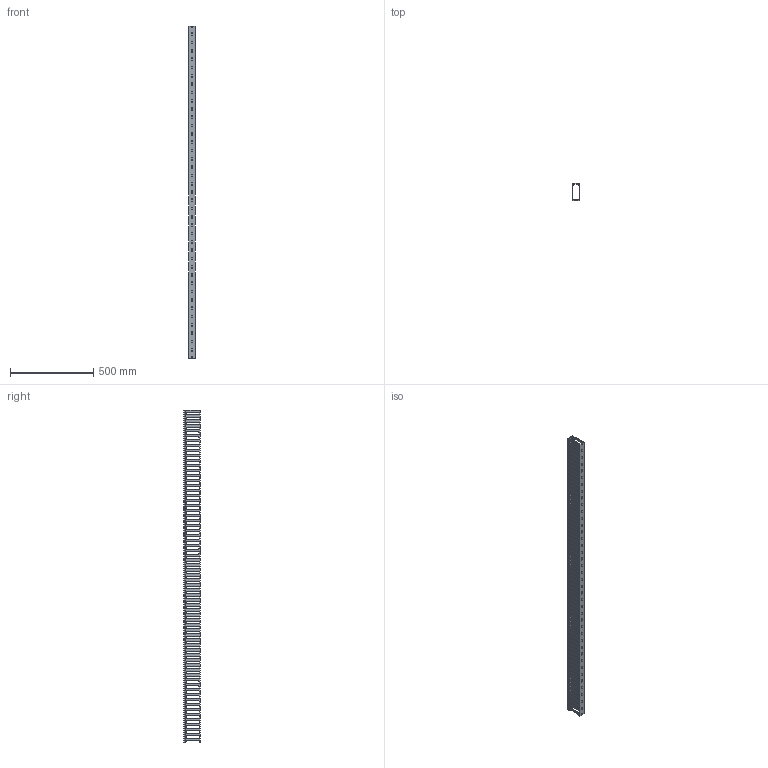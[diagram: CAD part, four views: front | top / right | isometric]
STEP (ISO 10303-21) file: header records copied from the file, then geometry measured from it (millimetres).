
FILE_DESCRIPTION (( 'STEP AP214' ), '1' );
FILE_NAME ('KD-410-20-T.STEP', '2020-02-19T01:37:26', ( '' ), ( '' ), 'SwSTEP 2.0', 'SolidWorks 2018', '' );
FILE_SCHEMA (( 'AUTOMOTIVE_DESIGN' ));
Length unit declared in the file: millimetre
Products named in the file (3): KD-410-20-T; KD-44-20-cover; KD-410-20-T-body
Assembly tree (2 placements, depth 2):
  KD-410-20-T
    KD-410-20-T-body
    KD-44-20-cover
Bounding box: 40 x 100.17 x 2000 mm (x, y, z)
Volume: 766875.6 mm3; surface area: 979977.4 mm2
Topology: 2 solids, 2 shells, 1999 faces, 6777 edges, 4518 vertices
Faces by surface type: plane 1178, cylinder 821
Entity records: 74919 total; most frequent: ORIENTED_EDGE 13554, CARTESIAN_POINT 13299, DIRECTION 12959, EDGE_CURVE 6777, VECTOR 4603, LINE 4603, VERTEX_POINT 4518, AXIS2_PLACEMENT_3D 4178
